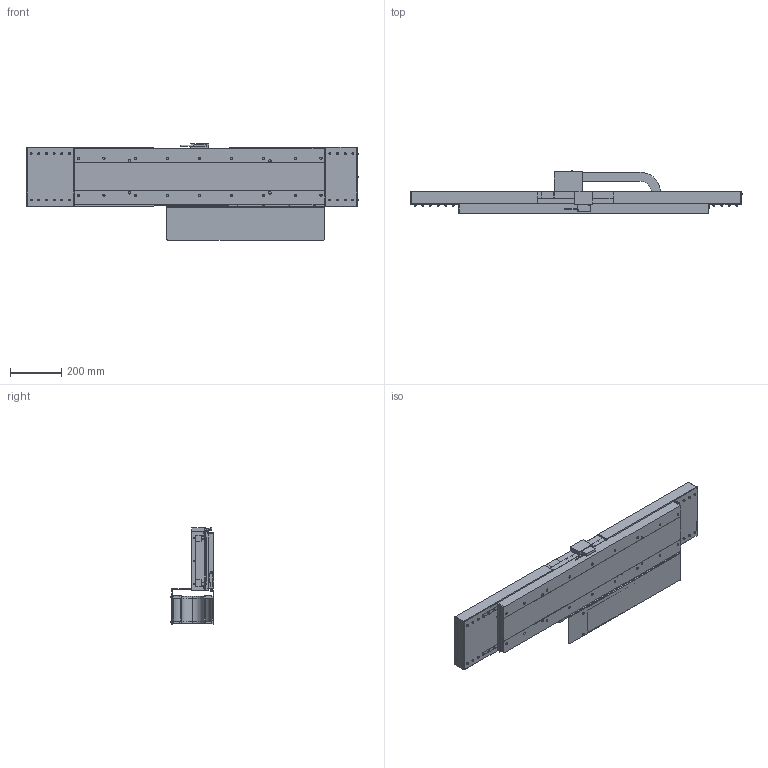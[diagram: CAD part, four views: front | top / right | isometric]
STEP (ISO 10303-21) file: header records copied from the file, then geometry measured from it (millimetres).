
FILE_DESCRIPTION (( 'STEP AP214' ), '1' );
FILE_NAME ('NST-A070##BPJB_#2.00_0.STEP', '2021-08-27T02:12:51', ( '' ), ( '' ), 'SwSTEP 2.0', 'SolidWorks 2018', '' );
FILE_SCHEMA (( 'AUTOMOTIVE_DESIGN' ));
Length unit declared in the file: millimetre
Products named in the file (4): AUA03010; NST-A070##BPJB_#2.00_0; 17YK1760_Org; AUA03210
Assembly tree (3 placements, depth 2):
  NST-A070##BPJB_#2.00_0
    AUA03210
    AUA03010
    17YK1760_Org
Bounding box: 1300 x 169 x 377 mm (x, y, z)
Volume: 15021618.6 mm3; surface area: 2553907.5 mm2
Topology: 40 solids, 40 shells, 1488 faces, 3783 edges, 2451 vertices
Faces by surface type: plane 906, cylinder 494, cone 40, torus 40, sphere 8
Entity records: 61241 total; most frequent: CARTESIAN_POINT 9469, DIRECTION 7633, ORIENTED_EDGE 7458, EDGE_CURVE 3729, AXIS2_PLACEMENT_3D 2572, LINE 2489, VECTOR 2489, VERTEX_POINT 2443
